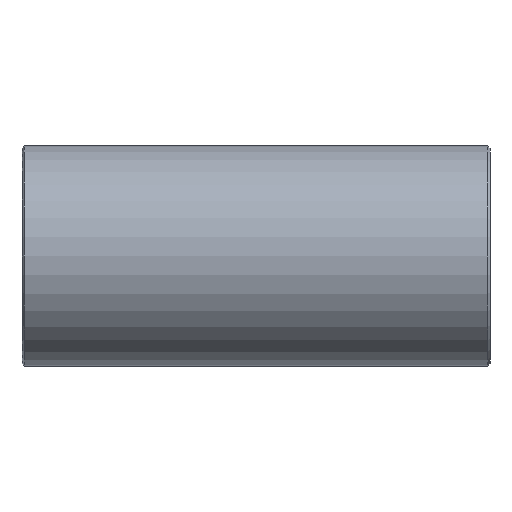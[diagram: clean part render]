
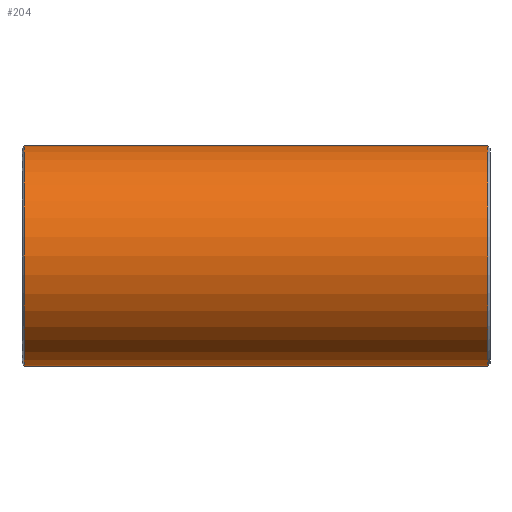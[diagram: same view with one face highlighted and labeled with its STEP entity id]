
A CAD part, front view. The second image highlights one B-rep face of the part: STEP entity #204.
In plain terms, the highlighted cylindrical face has radius 9.05 mm (diameter 18.1 mm), a full revolution.
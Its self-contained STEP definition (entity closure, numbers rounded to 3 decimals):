
#73=CARTESIAN_POINT('',(19.,9.05,0.));
#74=VERTEX_POINT('',#73);
#75=CARTESIAN_POINT('',(19.,0.0,0.0));
#76=DIRECTION('',(1.0,0.0,0.0));
#77=DIRECTION('',(0.0,-1.0,0.0));
#78=AXIS2_PLACEMENT_3D('',#75,#76,#77);
#79=CIRCLE('',#78,9.05);
#80=EDGE_CURVE('',#74,#74,#79,.T.);
#116=CARTESIAN_POINT('',(0.,0.0,0.0));
#117=DIRECTION('',(1.0,0.0,0.0));
#118=DIRECTION('',(0.0,1.0,0.0));
#119=AXIS2_PLACEMENT_3D('',#116,#117,#118);
#120=CYLINDRICAL_SURFACE('',#119,9.05);
#121=CARTESIAN_POINT('',(-19.0,9.05,0.));
#122=VERTEX_POINT('',#121);
#123=CARTESIAN_POINT('',(-19.0,0.0,0.0));
#124=DIRECTION('',(-1.0,0.0,0.0));
#125=DIRECTION('',(0.0,-1.0,0.0));
#126=AXIS2_PLACEMENT_3D('',#123,#124,#125);
#127=CIRCLE('',#126,9.05);
#128=EDGE_CURVE('',#122,#122,#127,.T.);
#129=ORIENTED_EDGE('',*,*,#128,.F.);
#130=EDGE_LOOP('',(#129));
#131=FACE_OUTER_BOUND('',#130,.T.);
#132=CARTESIAN_POINT('',(0.,4.951,7.576));
#133=VERTEX_POINT('',#132);
#134=CARTESIAN_POINT('',(0.,4.951,7.576));
#135=CARTESIAN_POINT('',(0.276,4.951,7.576));
#136=CARTESIAN_POINT('',(0.646,4.972,7.562));
#137=CARTESIAN_POINT('',(1.37,5.065,7.5));
#138=CARTESIAN_POINT('',(2.521,5.318,7.329));
#139=CARTESIAN_POINT('',(3.553,5.727,7.018));
#140=CARTESIAN_POINT('',(4.438,6.139,6.651));
#141=CARTESIAN_POINT('',(5.009,6.424,6.382));
#142=CARTESIAN_POINT('',(6.002,6.965,5.807));
#143=CARTESIAN_POINT('',(7.065,7.608,4.959));
#144=CARTESIAN_POINT('',(7.839,8.106,4.054));
#145=CARTESIAN_POINT('',(8.335,8.432,3.307));
#146=CARTESIAN_POINT('',(8.692,8.671,2.64));
#147=CARTESIAN_POINT('',(9.088,8.939,1.583));
#148=CARTESIAN_POINT('',(9.239,9.042,0.68));
#149=CARTESIAN_POINT('',(9.256,9.054,-0.225));
#150=CARTESIAN_POINT('',(9.206,9.019,-0.908));
#151=CARTESIAN_POINT('',(9.009,8.885,-1.792));
#152=CARTESIAN_POINT('',(8.763,8.718,-2.452));
#153=CARTESIAN_POINT('',(8.415,8.485,-3.177));
#154=CARTESIAN_POINT('',(7.941,8.171,-3.938));
#155=CARTESIAN_POINT('',(7.223,7.711,-4.764));
#156=CARTESIAN_POINT('',(6.623,7.342,-5.299));
#157=CARTESIAN_POINT('',(5.985,6.964,-5.79));
#158=CARTESIAN_POINT('',(5.222,6.531,-6.283));
#159=CARTESIAN_POINT('',(4.086,5.958,-6.825));
#160=CARTESIAN_POINT('',(2.952,5.487,-7.202));
#161=CARTESIAN_POINT('',(2.046,5.216,-7.397));
#162=CARTESIAN_POINT('',(1.107,5.014,-7.535));
#163=CARTESIAN_POINT('',(0.001,4.9,-7.608));
#164=CARTESIAN_POINT('',(-1.105,5.014,-7.535));
#165=CARTESIAN_POINT('',(-2.044,5.216,-7.397));
#166=CARTESIAN_POINT('',(-2.722,5.418,-7.252));
#167=CARTESIAN_POINT('',(-3.463,5.7,-7.032));
#168=CARTESIAN_POINT('',(-4.276,6.053,-6.735));
#169=CARTESIAN_POINT('',(-5.223,6.532,-6.282));
#170=CARTESIAN_POINT('',(-6.412,7.206,-5.515));
#171=CARTESIAN_POINT('',(-7.263,7.736,-4.734));
#172=CARTESIAN_POINT('',(-7.765,8.059,-4.121));
#173=CARTESIAN_POINT('',(-8.122,8.291,-3.647));
#174=CARTESIAN_POINT('',(-8.574,8.591,-2.921));
#175=CARTESIAN_POINT('',(-8.987,8.871,-1.891));
#176=CARTESIAN_POINT('',(-9.162,8.989,-1.106));
#177=CARTESIAN_POINT('',(-9.26,9.057,-0.304));
#178=CARTESIAN_POINT('',(-9.26,9.057,0.608));
#179=CARTESIAN_POINT('',(-9.045,8.909,1.699));
#180=CARTESIAN_POINT('',(-8.763,8.718,2.451));
#181=CARTESIAN_POINT('',(-8.502,8.544,2.995));
#182=CARTESIAN_POINT('',(-8.059,8.249,3.781));
#183=CARTESIAN_POINT('',(-7.467,7.864,4.514));
#184=CARTESIAN_POINT('',(-6.591,7.322,5.338));
#185=CARTESIAN_POINT('',(-5.866,6.891,5.886));
#186=CARTESIAN_POINT('',(-4.94,6.387,6.422));
#187=CARTESIAN_POINT('',(-4.078,5.962,6.816));
#188=CARTESIAN_POINT('',(-3.158,5.571,7.137));
#189=CARTESIAN_POINT('',(-2.166,5.239,7.382));
#190=CARTESIAN_POINT('',(-1.106,5.007,7.539));
#191=CARTESIAN_POINT('',(-0.369,4.951,7.576));
#192=CARTESIAN_POINT('',(0.,4.951,7.576));
#193=CARTESIAN_POINT('',(0.,4.951,7.576));
#194=CARTESIAN_POINT('',(0.,4.951,7.576));
#195=CARTESIAN_POINT('',(0.,4.951,7.576));
#196=B_SPLINE_CURVE_WITH_KNOTS('',3,(#134,#135,#136,#137,#138,#139,#140,#141,#142,#143,#144,#145,#146,#147,#148,#149,#150,#151,#152,#153,#154,#155,#156,#157,#158,#159,#160,#161,#162,#163,#164,#165,#166,#167,#168,#169,#170,#171,#172,#173,#174,#175,#176,#177,#178,#179,#180,#181,#182,#183,#184,#185,#186,#187,#188,#189,#190,#191,#192,#193,#194,#195),.UNSPECIFIED.,.T.,.U.,(4,1,1,1,1,1,1,1,1,1,1,1,1,1,1,1,1,1,1,1,1,1,1,1,1,1,1,1,1,1,1,1,1,1,1,1,1,1,1,1,1,1,1,1,1,1,1,1,1,1,1,1,1,1,1,1,3,4),(-4.685,-4.622,-4.602,-4.518,-4.351,-4.33,-4.267,-4.183,-4.016,-3.89,-3.849,-3.765,-3.681,-3.535,-3.514,-3.43,-3.347,-3.263,-3.235,-3.123,-3.012,-2.928,-2.9,-2.789,-2.677,-2.566,-2.482,-2.454,-2.343,-2.231,-2.203,-2.119,-2.064,-2.008,-1.896,-1.785,-1.618,-1.576,-1.562,-1.45,-1.339,-1.255,-1.227,-1.116,-1.004,-0.92,-0.892,-0.837,-0.669,-0.627,-0.502,-0.418,-0.335,-0.251,-0.167,-0.084,0.0,0.),.UNSPECIFIED.);
#197=EDGE_CURVE('',#133,#133,#196,.T.);
#198=ORIENTED_EDGE('',*,*,#197,.F.);
#199=EDGE_LOOP('',(#198));
#200=FACE_BOUND('',#199,.T.);
#201=ORIENTED_EDGE('',*,*,#80,.F.);
#202=EDGE_LOOP('',(#201));
#203=FACE_BOUND('',#202,.T.);
#204=ADVANCED_FACE('',(#131,#200,#203),#120,.T.);
